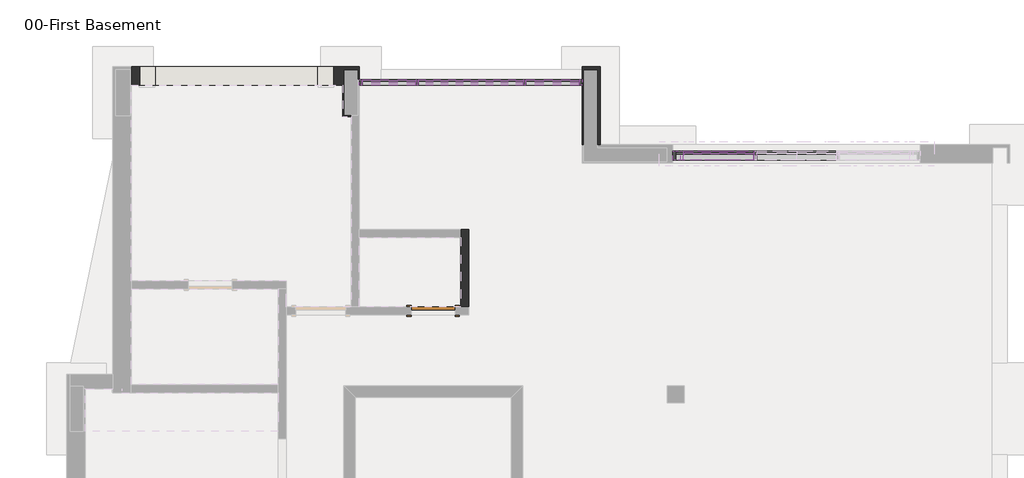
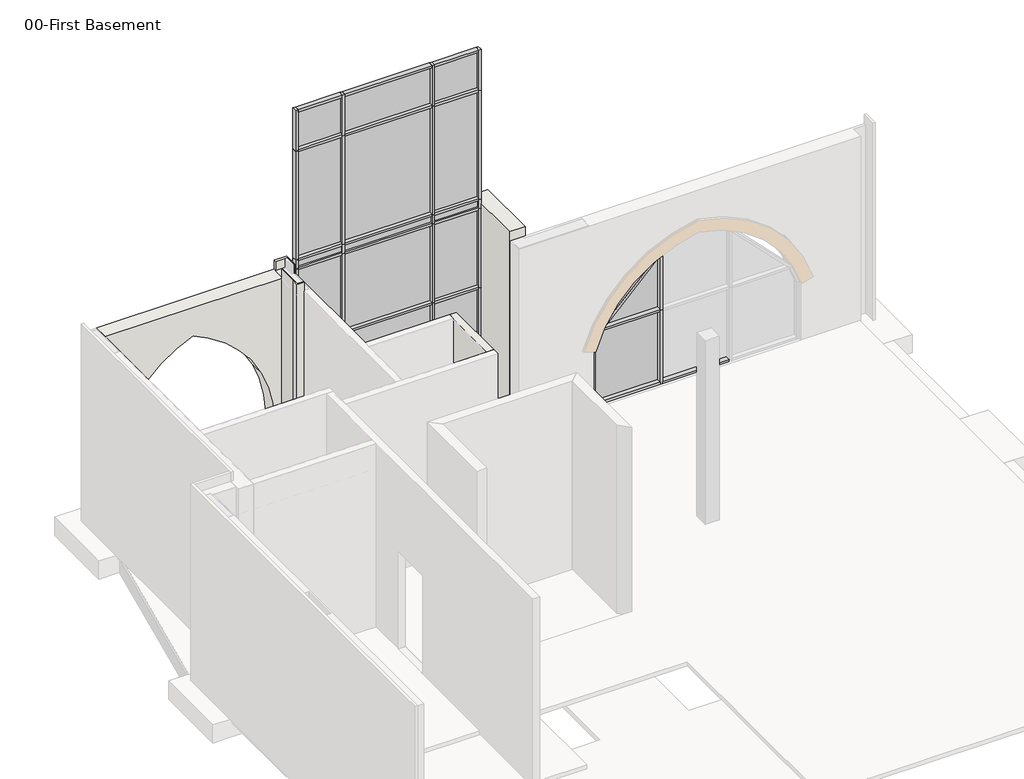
# One storey, part 2 of 5: 46 members, 17 plates, 5 walls, 1 door.
"""IFC4 building model written with IfcOpenShell, lengths in millimetres."""

from ifc_helpers import new_model, si_unit, frame, origin, place, context, project, spatial, polyline, circle_curve, faceted_brep, transform, mapped, element, save
from ifc_brep_helpers import plane_surface, revolved_surface, advanced_brep
from components import m_single_flush_0762_x_2134mm_95badebb, rectangular_mullion_50_x_100mm_b07d091a, rectangular_mullion_50_x_100mm_6a726e2b, rectangular_mullion_50_x_100mm_08c5ebd4, rectangular_mullion_50_x_100mm_9c70abfb, rectangular_mullion_50_x_100mm_d5294c93, rectangular_mullion_50_x_100mm_458d3598, rectangular_mullion_50_x_100mm_1ab0dc9e, rectangular_mullion_50_x_100mm_779ca808, rectangular_mullion_50_x_100mm_af4915d7, rectangular_mullion_50_x_100mm_a897db86, rectangular_mullion_50_x_100mm_c640f651, rectangular_mullion_50_x_100mm_afb0b622, rectangular_mullion_50_x_150mm_8dc91bbf, rectangular_mullion_50_x_150mm_ea957ebc, rectangular_mullion_50_x_150mm_096bd82a, rectangular_mullion_50_x_150mm_d3586647, rectangular_mullion_50_x_150mm_248484f7, rectangular_mullion_50_x_150mm_6aa79e23, rectangular_mullion_50_x_150mm_7041efae, rectangular_mullion_50_x_150mm_71fdedb2, system_panel_glazed_70154507, system_panel_glazed_43576473, system_panel_glazed_44af1e34, system_panel_glazed_045a3451, system_panel_glazed_f7129221, system_panel_glazed_15acf569, system_panel_glazed_fbde87e3, system_panel_glazed_87d094ba, system_panel_glazed_2f07938e, system_panel_glazed_bc1c2061, system_panel_solid_b400a1e7, system_panel_solid_eb1a4a87

model = new_model("IFC4")

# Units and contexts
model_context = context("Model", 3, world=origin())
ifc_project = project(units=[si_unit("LENGTHUNIT", "METRE", prefix="MILLI")], contexts=[model_context])

# Site, building, storey
site = spatial("IfcSite", under=ifc_project)
building = spatial("IfcBuilding", under=site)
storey = spatial("IfcBuildingStorey", under=building, Name="00-First Basement", Elevation=-4350.0)

# Door
placement = place(None, origin())
m_single_flush_0762_x_2134mm_shape = m_single_flush_0762_x_2134mm_95badebb(model_context)
element("IfcDoor", 1, ObjectType="M_Single-Flush : 0762 x 2134mm", at=placement, inside=storey, context=model_context, shape_type="MappedRepresentation", body=[
    mapped(m_single_flush_0762_x_2134mm_shape, transform((-7764.314163, 1334.1261566, -4250.0), x_axis=(1.0, 0.0, 0.0), y_axis=(0.0, 1.0, 0.0), z_axis=(0.0, 0.0, 1.0))),
])

# Members
rectangular_mullion_50_x_100mm_shape = rectangular_mullion_50_x_100mm_b07d091a(model_context)
element("IfcMember", 2, ObjectType="Rectangular Mullion : 50 x 100mm", at=placement, inside=storey, context=model_context, shape_type="MappedRepresentation", body=[
    mapped(rectangular_mullion_50_x_100mm_shape, transform((-8995.0580776, 5308.8965304, -4250.0), x_axis=(0.0, 0.0, -1.0), y_axis=(0.0, -1.0, 0.0), z_axis=(-1.0, 0.0, 0.0))),
])
element("IfcMember", 3, ObjectType="Rectangular Mullion : 50 x 100mm", at=placement, inside=storey, context=model_context, shape_type="MappedRepresentation", body=[
    mapped(rectangular_mullion_50_x_100mm_shape, transform((-6152.8802351, 5308.8965304, -4250.0), x_axis=(0.0, 0.0, -1.0), y_axis=(0.0, -1.0, 0.0), z_axis=(-1.0, 0.0, 0.0))),
])
rectangular_mullion_50_x_100mm_2_shape = rectangular_mullion_50_x_100mm_6a726e2b(model_context)
element("IfcMember", 4, ObjectType="Rectangular Mullion : 50 x 100mm", at=placement, inside=storey, context=model_context, shape_type="MappedRepresentation", body=[
    mapped(rectangular_mullion_50_x_100mm_2_shape, transform((-8020.0580776, 5308.8965304, -4250.0), x_axis=(0.0, 0.0, -1.0), y_axis=(0.0, -1.0, 0.0), z_axis=(-1.0, 0.0, 0.0))),
])
rectangular_mullion_50_x_100mm_3_shape = rectangular_mullion_50_x_100mm_08c5ebd4(model_context)
element("IfcMember", 5, ObjectType="Rectangular Mullion : 50 x 100mm", at=placement, inside=storey, context=model_context, shape_type="MappedRepresentation", body=[
    mapped(rectangular_mullion_50_x_100mm_3_shape, transform((-8045.0580776, 5308.8965304, -1850.0), x_axis=(1.0, 0.0, 0.0), y_axis=(0.0, -1.0, 0.0), z_axis=(0.0, 0.0, -1.0))),
])
element("IfcMember", 6, ObjectType="Rectangular Mullion : 50 x 100mm", at=placement, inside=storey, context=model_context, shape_type="MappedRepresentation", body=[
    mapped(rectangular_mullion_50_x_100mm_3_shape, transform((-6177.8802351, 5308.8965304, -1850.0), x_axis=(1.0, 0.0, 0.0), y_axis=(0.0, -1.0, 0.0), z_axis=(0.0, 0.0, -1.0))),
])
rectangular_mullion_50_x_100mm_4_shape = rectangular_mullion_50_x_100mm_9c70abfb(model_context)
element("IfcMember", 7, ObjectType="Rectangular Mullion : 50 x 100mm", at=placement, inside=storey, context=model_context, shape_type="MappedRepresentation", body=[
    mapped(rectangular_mullion_50_x_100mm_4_shape, transform((-8045.0580776, 5308.8965304, -100.0), x_axis=(1.0, 0.0, 0.0), y_axis=(0.0, -1.0, 0.0), z_axis=(0.0, 0.0, -1.0))),
])
element("IfcMember", 8, ObjectType="Rectangular Mullion : 50 x 100mm", at=placement, inside=storey, context=model_context, shape_type="MappedRepresentation", body=[
    mapped(rectangular_mullion_50_x_100mm_4_shape, transform((-6177.8802351, 5308.8965304, -100.0), x_axis=(1.0, 0.0, 0.0), y_axis=(0.0, -1.0, 0.0), z_axis=(0.0, 0.0, -1.0))),
])
rectangular_mullion_50_x_100mm_5_shape = rectangular_mullion_50_x_100mm_d5294c93(model_context)
element("IfcMember", 9, ObjectType="Rectangular Mullion : 50 x 100mm", at=placement, inside=storey, context=model_context, shape_type="MappedRepresentation", body=[
    mapped(rectangular_mullion_50_x_100mm_5_shape, transform((-8045.0580776, 5308.8965304, 100.0), x_axis=(1.0, 0.0, 0.0), y_axis=(0.0, -1.0, 0.0), z_axis=(0.0, 0.0, -1.0))),
])
element("IfcMember", 10, ObjectType="Rectangular Mullion : 50 x 100mm", at=placement, inside=storey, context=model_context, shape_type="MappedRepresentation", body=[
    mapped(rectangular_mullion_50_x_100mm_5_shape, transform((-6177.8802351, 5308.8965304, 100.0), x_axis=(1.0, 0.0, 0.0), y_axis=(0.0, -1.0, 0.0), z_axis=(0.0, 0.0, -1.0))),
])
rectangular_mullion_50_x_100mm_6_shape = rectangular_mullion_50_x_100mm_458d3598(model_context)
element("IfcMember", 11, ObjectType="Rectangular Mullion : 50 x 100mm", at=placement, inside=storey, context=model_context, shape_type="MappedRepresentation", body=[
    mapped(rectangular_mullion_50_x_100mm_6_shape, transform((-5227.8802351, 5308.8965304, -1850.0), x_axis=(0.0, 0.0, 1.0), y_axis=(0.0, -1.0, 0.0), z_axis=(1.0, 0.0, 0.0))),
])
element("IfcMember", 12, ObjectType="Rectangular Mullion : 50 x 100mm", at=placement, inside=storey, context=model_context, shape_type="MappedRepresentation", body=[
    mapped(rectangular_mullion_50_x_100mm_6_shape, transform((-8070.0580776, 5308.8965304, -1850.0), x_axis=(0.0, 0.0, 1.0), y_axis=(0.0, -1.0, 0.0), z_axis=(1.0, 0.0, 0.0))),
])
element("IfcMember", 13, ObjectType="Rectangular Mullion : 50 x 100mm", at=placement, inside=storey, context=model_context, shape_type="MappedRepresentation", body=[
    mapped(rectangular_mullion_50_x_100mm_6_shape, transform((-8070.0580776, 5308.8965304, 100.0), x_axis=(0.0, 0.0, 1.0), y_axis=(0.0, -1.0, 0.0), z_axis=(1.0, 0.0, 0.0))),
])
element("IfcMember", 14, ObjectType="Rectangular Mullion : 50 x 100mm", at=placement, inside=storey, context=model_context, shape_type="MappedRepresentation", body=[
    mapped(rectangular_mullion_50_x_100mm_6_shape, transform((-5227.8802351, 5308.8965304, 100.0), x_axis=(0.0, 0.0, 1.0), y_axis=(0.0, -1.0, 0.0), z_axis=(1.0, 0.0, 0.0))),
])
element("IfcMember", 15, ObjectType="Rectangular Mullion : 50 x 100mm", at=placement, inside=storey, context=model_context, shape_type="MappedRepresentation", body=[
    mapped(rectangular_mullion_50_x_100mm_6_shape, transform((-8070.0580776, 5308.8965304, -100.0), x_axis=(0.0, 0.0, 1.0), y_axis=(0.0, -1.0, 0.0), z_axis=(1.0, 0.0, 0.0))),
])
element("IfcMember", 16, ObjectType="Rectangular Mullion : 50 x 100mm", at=placement, inside=storey, context=model_context, shape_type="MappedRepresentation", body=[
    mapped(rectangular_mullion_50_x_100mm_6_shape, transform((-5227.8802351, 5308.8965304, -100.0), x_axis=(0.0, 0.0, 1.0), y_axis=(0.0, -1.0, 0.0), z_axis=(1.0, 0.0, 0.0))),
])
element("IfcMember", 17, ObjectType="Rectangular Mullion : 50 x 100mm", at=placement, inside=storey, context=model_context, shape_type="MappedRepresentation", body=[
    mapped(rectangular_mullion_50_x_100mm_6_shape, transform((-8070.0580776, 5308.8965304, 2500.0), x_axis=(0.0, 0.0, 1.0), y_axis=(0.0, -1.0, 0.0), z_axis=(1.0, 0.0, 0.0))),
])
element("IfcMember", 18, ObjectType="Rectangular Mullion : 50 x 100mm", at=placement, inside=storey, context=model_context, shape_type="MappedRepresentation", body=[
    mapped(rectangular_mullion_50_x_100mm_6_shape, transform((-5227.8802351, 5308.8965304, 2500.0), x_axis=(0.0, 0.0, 1.0), y_axis=(0.0, -1.0, 0.0), z_axis=(1.0, 0.0, 0.0))),
])
element("IfcMember", 19, ObjectType="Rectangular Mullion : 50 x 100mm", at=placement, inside=storey, context=model_context, shape_type="MappedRepresentation", body=[
    mapped(rectangular_mullion_50_x_100mm_5_shape, transform((-6177.8802351, 5308.8965304, -4250.0), x_axis=(1.0, 0.0, 0.0), y_axis=(0.0, -1.0, 0.0), z_axis=(0.0, 0.0, -1.0))),
])
element("IfcMember", 20, ObjectType="Rectangular Mullion : 50 x 100mm", at=placement, inside=storey, context=model_context, shape_type="MappedRepresentation", body=[
    mapped(rectangular_mullion_50_x_100mm_5_shape, transform((-8045.0580776, 5308.8965304, -4250.0), x_axis=(1.0, 0.0, 0.0), y_axis=(0.0, -1.0, 0.0), z_axis=(0.0, 0.0, -1.0))),
])
rectangular_mullion_50_x_100mm_7_shape = rectangular_mullion_50_x_100mm_1ab0dc9e(model_context)
element("IfcMember", 21, ObjectType="Rectangular Mullion : 50 x 100mm", at=placement, inside=storey, context=model_context, shape_type="MappedRepresentation", body=[
    mapped(rectangular_mullion_50_x_100mm_7_shape, transform((-6202.8802351, 5308.8965304, -1850.0), x_axis=(0.0, 0.0, 1.0), y_axis=(0.0, -1.0, 0.0), z_axis=(1.0, 0.0, 0.0))),
])
element("IfcMember", 22, ObjectType="Rectangular Mullion : 50 x 100mm", at=placement, inside=storey, context=model_context, shape_type="MappedRepresentation", body=[
    mapped(rectangular_mullion_50_x_100mm_7_shape, transform((-6202.8802351, 5308.8965304, 100.0), x_axis=(0.0, 0.0, 1.0), y_axis=(0.0, -1.0, 0.0), z_axis=(1.0, 0.0, 0.0))),
])
element("IfcMember", 23, ObjectType="Rectangular Mullion : 50 x 100mm", at=placement, inside=storey, context=model_context, shape_type="MappedRepresentation", body=[
    mapped(rectangular_mullion_50_x_100mm_7_shape, transform((-6202.8802351, 5308.8965304, -100.0), x_axis=(0.0, 0.0, 1.0), y_axis=(0.0, -1.0, 0.0), z_axis=(1.0, 0.0, 0.0))),
])
element("IfcMember", 24, ObjectType="Rectangular Mullion : 50 x 100mm", at=placement, inside=storey, context=model_context, shape_type="MappedRepresentation", body=[
    mapped(rectangular_mullion_50_x_100mm_7_shape, transform((-6202.8802351, 5308.8965304, 2500.0), x_axis=(0.0, 0.0, 1.0), y_axis=(0.0, -1.0, 0.0), z_axis=(1.0, 0.0, 0.0))),
])
rectangular_mullion_50_x_100mm_8_shape = rectangular_mullion_50_x_100mm_779ca808(model_context)
element("IfcMember", 25, ObjectType="Rectangular Mullion : 50 x 100mm", at=placement, inside=storey, context=model_context, shape_type="MappedRepresentation", body=[
    mapped(rectangular_mullion_50_x_100mm_8_shape, transform((-5177.8802351, 5308.8965304, -4250.0), x_axis=(1.0, 0.0, 0.0), y_axis=(0.0, -1.0, 0.0), z_axis=(0.0, 0.0, -1.0))),
])
rectangular_mullion_50_x_100mm_9_shape = rectangular_mullion_50_x_100mm_af4915d7(model_context)
element("IfcMember", 26, ObjectType="Rectangular Mullion : 50 x 100mm", at=placement, inside=storey, context=model_context, shape_type="MappedRepresentation", body=[
    mapped(rectangular_mullion_50_x_100mm_9_shape, transform((-5177.8802351, 5308.8965304, -1850.0), x_axis=(1.0, 0.0, 0.0), y_axis=(0.0, -1.0, 0.0), z_axis=(0.0, 0.0, -1.0))),
])
element("IfcMember", 27, ObjectType="Rectangular Mullion : 50 x 100mm", at=placement, inside=storey, context=model_context, shape_type="MappedRepresentation", body=[
    mapped(rectangular_mullion_50_x_100mm_8_shape, transform((-9045.0580776, 5308.8965304, -1850.0), x_axis=(-1.0, 0.0, 0.0), y_axis=(0.0, -1.0, 0.0), z_axis=(0.0, 0.0, 1.0))),
])
rectangular_mullion_50_x_100mm_10_shape = rectangular_mullion_50_x_100mm_a897db86(model_context)
element("IfcMember", 28, ObjectType="Rectangular Mullion : 50 x 100mm", at=placement, inside=storey, context=model_context, shape_type="MappedRepresentation", body=[
    mapped(rectangular_mullion_50_x_100mm_10_shape, transform((-9045.0580776, 5308.8965304, 100.0), x_axis=(-1.0, 0.0, 0.0), y_axis=(0.0, -1.0, 0.0), z_axis=(0.0, 0.0, 1.0))),
])
element("IfcMember", 29, ObjectType="Rectangular Mullion : 50 x 100mm", at=placement, inside=storey, context=model_context, shape_type="MappedRepresentation", body=[
    mapped(rectangular_mullion_50_x_100mm_8_shape, transform((-5177.8802351, 5308.8965304, 100.0), x_axis=(1.0, 0.0, 0.0), y_axis=(0.0, -1.0, 0.0), z_axis=(0.0, 0.0, -1.0))),
])
element("IfcMember", 30, ObjectType="Rectangular Mullion : 50 x 100mm", at=placement, inside=storey, context=model_context, shape_type="MappedRepresentation", body=[
    mapped(rectangular_mullion_50_x_100mm_10_shape, transform((-5177.8802351, 5308.8965304, -100.0), x_axis=(1.0, 0.0, 0.0), y_axis=(0.0, -1.0, 0.0), z_axis=(0.0, 0.0, -1.0))),
])
element("IfcMember", 31, ObjectType="Rectangular Mullion : 50 x 100mm", at=placement, inside=storey, context=model_context, shape_type="MappedRepresentation", body=[
    mapped(rectangular_mullion_50_x_100mm_9_shape, transform((-9045.0580776, 5308.8965304, -100.0), x_axis=(-1.0, 0.0, 0.0), y_axis=(0.0, -1.0, 0.0), z_axis=(0.0, 0.0, 1.0))),
])
element("IfcMember", 32, ObjectType="Rectangular Mullion : 50 x 100mm", at=placement, inside=storey, context=model_context, shape_type="MappedRepresentation", body=[
    mapped(rectangular_mullion_50_x_100mm_8_shape, transform((-9045.0580776, 5308.8965304, 2500.0), x_axis=(-1.0, 0.0, 0.0), y_axis=(0.0, -1.0, 0.0), z_axis=(0.0, 0.0, 1.0))),
])
rectangular_mullion_50_x_100mm_11_shape = rectangular_mullion_50_x_100mm_c640f651(model_context)
element("IfcMember", 33, ObjectType="Rectangular Mullion : 50 x 100mm", at=placement, inside=storey, context=model_context, shape_type="MappedRepresentation", body=[
    mapped(rectangular_mullion_50_x_100mm_11_shape, transform((-8045.0580776, 5308.8965304, 2500.0), x_axis=(1.0, 0.0, 0.0), y_axis=(0.0, -1.0, 0.0), z_axis=(0.0, 0.0, -1.0))),
])
element("IfcMember", 34, ObjectType="Rectangular Mullion : 50 x 100mm", at=placement, inside=storey, context=model_context, shape_type="MappedRepresentation", body=[
    mapped(rectangular_mullion_50_x_100mm_11_shape, transform((-6177.8802351, 5308.8965304, 2500.0), x_axis=(1.0, 0.0, 0.0), y_axis=(0.0, -1.0, 0.0), z_axis=(0.0, 0.0, -1.0))),
])
element("IfcMember", 35, ObjectType="Rectangular Mullion : 50 x 100mm", at=placement, inside=storey, context=model_context, shape_type="MappedRepresentation", body=[
    mapped(rectangular_mullion_50_x_100mm_shape, transform((-8070.0580776, 5308.8965304, 3400.0), x_axis=(0.0, 0.0, 1.0), y_axis=(0.0, -1.0, 0.0), z_axis=(1.0, 0.0, 0.0))),
])
element("IfcMember", 36, ObjectType="Rectangular Mullion : 50 x 100mm", at=placement, inside=storey, context=model_context, shape_type="MappedRepresentation", body=[
    mapped(rectangular_mullion_50_x_100mm_shape, transform((-5227.8802351, 5308.8965304, 3400.0), x_axis=(0.0, 0.0, 1.0), y_axis=(0.0, -1.0, 0.0), z_axis=(1.0, 0.0, 0.0))),
])
element("IfcMember", 37, ObjectType="Rectangular Mullion : 50 x 100mm", at=placement, inside=storey, context=model_context, shape_type="MappedRepresentation", body=[
    mapped(rectangular_mullion_50_x_100mm_2_shape, transform((-6202.8802351, 5308.8965304, 3400.0), x_axis=(0.0, 0.0, 1.0), y_axis=(0.0, -1.0, 0.0), z_axis=(1.0, 0.0, 0.0))),
])
rectangular_mullion_50_x_100mm_12_shape = rectangular_mullion_50_x_100mm_afb0b622(model_context)
element("IfcMember", 38, ObjectType="Rectangular Mullion : 50 x 100mm", at=placement, inside=storey, context=model_context, shape_type="MappedRepresentation", body=[
    mapped(rectangular_mullion_50_x_100mm_12_shape, transform((-9045.0580776, 5308.8965304, 3400.0), x_axis=(-1.0, 0.0, 0.0), y_axis=(0.0, -1.0, 0.0), z_axis=(0.0, 0.0, 1.0))),
])
element("IfcMember", 39, ObjectType="Rectangular Mullion : 50 x 100mm", at=placement, inside=storey, context=model_context, shape_type="MappedRepresentation", body=[
    mapped(rectangular_mullion_50_x_100mm_12_shape, transform((-5177.8802351, 5308.8965304, 2500.0), x_axis=(1.0, 0.0, 0.0), y_axis=(0.0, -1.0, 0.0), z_axis=(0.0, 0.0, -1.0))),
])
rectangular_mullion_50_x_150mm_shape = rectangular_mullion_50_x_150mm_8dc91bbf(model_context)
element("IfcMember", 40, ObjectType="Rectangular Mullion : 50 x 150mm", at=placement, inside=storey, context=model_context, shape_type="MappedRepresentation", body=[
    mapped(rectangular_mullion_50_x_150mm_shape, transform((-3550.6988602, 4036.536195, -4250.0), x_axis=(0.0, 0.0, -1.0), y_axis=(0.0, -1.0, 0.0), z_axis=(-1.0, 0.0, 0.0))),
])
rectangular_mullion_50_x_150mm_2_shape = rectangular_mullion_50_x_150mm_ea957ebc(model_context)
element("IfcMember", 41, ObjectType="Rectangular Mullion : 50 x 150mm", at=placement, inside=storey, context=model_context, shape_type="MappedRepresentation", body=[
    mapped(rectangular_mullion_50_x_150mm_2_shape, transform((-2142.3655268, 4036.536195, -4250.0), x_axis=(0.0, 0.0, -1.0), y_axis=(0.0, -1.0, 0.0), z_axis=(-1.0, 0.0, 0.0))),
])
rectangular_mullion_50_x_150mm_3_shape = rectangular_mullion_50_x_150mm_096bd82a(model_context)
element("IfcMember", 42, ObjectType="Rectangular Mullion : 50 x 150mm", at=placement, inside=storey, context=model_context, shape_type="MappedRepresentation", body=[
    mapped(rectangular_mullion_50_x_150mm_3_shape, transform((-2167.3655268, 4036.536195, -4250.0), x_axis=(1.0, 0.0, 0.0), y_axis=(0.0, -1.0, 0.0), z_axis=(0.0, 0.0, -1.0))),
])
rectangular_mullion_50_x_150mm_4_shape = rectangular_mullion_50_x_150mm_d3586647(model_context)
element("IfcMember", 43, ObjectType="Rectangular Mullion : 50 x 150mm", at=placement, inside=storey, context=model_context, shape_type="MappedRepresentation", body=[
    mapped(rectangular_mullion_50_x_150mm_4_shape, transform((-2167.3655268, 4036.536195, -2621.0268991), x_axis=(1.0, 0.0, 0.0), y_axis=(0.0, -1.0, 0.0), z_axis=(0.0, 0.0, -1.0))),
])
rectangular_mullion_50_x_150mm_5_shape = rectangular_mullion_50_x_150mm_248484f7(model_context)
element("IfcMember", 44, ObjectType="Rectangular Mullion : 50 x 150mm", at=placement, inside=storey, context=model_context, shape_type="MappedRepresentation", body=[
    mapped(rectangular_mullion_50_x_150mm_5_shape, transform((-2192.3655268, 4036.536195, -2621.0268991), x_axis=(0.0, 0.0, 1.0), y_axis=(0.0, -1.0, 0.0), z_axis=(1.0, 0.0, 0.0))),
])
rectangular_mullion_50_x_150mm_6_shape = rectangular_mullion_50_x_150mm_6aa79e23(model_context)
element("IfcMember", 45, ObjectType="Rectangular Mullion : 50 x 150mm", at=placement, inside=storey, context=model_context, shape_type="MappedRepresentation", body=[
    mapped(rectangular_mullion_50_x_150mm_6_shape, transform((-2167.3655268, 4036.536195, -1307.8784269), x_axis=(-0.42958491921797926, 0.0, 0.9030264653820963), y_axis=(0.0, -1.0, 0.0), z_axis=(0.9030264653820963, 0.0, 0.42958491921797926))),
])
rectangular_mullion_50_x_150mm_7_shape = rectangular_mullion_50_x_150mm_7041efae(model_context)
element("IfcMember", 46, ObjectType="Rectangular Mullion : 50 x 150mm", at=placement, inside=storey, context=model_context, shape_type="MappedRepresentation", body=[
    mapped(rectangular_mullion_50_x_150mm_7_shape, transform((-3464.5196452, 4036.536195, -2621.0268991), x_axis=(-0.9082229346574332, 0.0, 0.41848667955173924), y_axis=(0.0, -1.0, 0.0), z_axis=(0.41848667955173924, 0.0, 0.9082229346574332))),
])
rectangular_mullion_50_x_150mm_8_shape = rectangular_mullion_50_x_150mm_71fdedb2(model_context)
element("IfcMember", 47, ObjectType="Rectangular Mullion : 50 x 150mm", at=placement, inside=storey, context=model_context, shape_type="MappedRepresentation", body=[
    mapped(rectangular_mullion_50_x_150mm_8_shape, transform((-3600.6988602, 4036.536195, -2982.2809039), x_axis=(-1.0, 0.0, 0.0), y_axis=(0.0, -1.0, 0.0), z_axis=(0.0, 0.0, 1.0))),
])

# Plates
system_panel_glazed_shape = system_panel_glazed_70154507(model_context)
element("IfcPlate", 48, ObjectType="System Panel : Glazed", at=placement, inside=storey, context=model_context, shape_type="MappedRepresentation", body=[
    mapped(system_panel_glazed_shape, transform((-8532.5580776, 5308.8965304, -4200.0), x_axis=(1.0, 0.0, 0.0), y_axis=(0.0, 1.0, 0.0), z_axis=(0.0, 0.0, 1.0))),
])
element("IfcPlate", 49, ObjectType="System Panel : Glazed", at=placement, inside=storey, context=model_context, shape_type="MappedRepresentation", body=[
    mapped(system_panel_glazed_shape, transform((-5690.3802351, 5308.8965304, -4200.0), x_axis=(1.0, 0.0, 0.0), y_axis=(0.0, 1.0, 0.0), z_axis=(0.0, 0.0, 1.0))),
])
system_panel_glazed_2_shape = system_panel_glazed_43576473(model_context)
element("IfcPlate", 50, ObjectType="System Panel : Glazed", at=placement, inside=storey, context=model_context, shape_type="MappedRepresentation", body=[
    mapped(system_panel_glazed_2_shape, transform((-7111.4691563, 5308.8965304, -4200.0), x_axis=(1.0, 0.0, 0.0), y_axis=(0.0, 1.0, 0.0), z_axis=(0.0, 0.0, 1.0))),
])
system_panel_glazed_3_shape = system_panel_glazed_44af1e34(model_context)
element("IfcPlate", 51, ObjectType="System Panel : Glazed", at=placement, inside=storey, context=model_context, shape_type="MappedRepresentation", body=[
    mapped(system_panel_glazed_3_shape, transform((-8532.5580776, 5308.8965304, -1825.0), x_axis=(1.0, 0.0, 0.0), y_axis=(0.0, 1.0, 0.0), z_axis=(0.0, 0.0, 1.0))),
])
element("IfcPlate", 52, ObjectType="System Panel : Glazed", at=placement, inside=storey, context=model_context, shape_type="MappedRepresentation", body=[
    mapped(system_panel_glazed_3_shape, transform((-5690.3802351, 5308.8965304, -1825.0), x_axis=(1.0, 0.0, 0.0), y_axis=(0.0, 1.0, 0.0), z_axis=(0.0, 0.0, 1.0))),
])
system_panel_glazed_4_shape = system_panel_glazed_045a3451(model_context)
element("IfcPlate", 53, ObjectType="System Panel : Glazed", at=placement, inside=storey, context=model_context, shape_type="MappedRepresentation", body=[
    mapped(system_panel_glazed_4_shape, transform((-7111.4691563, 5308.8965304, -1825.0), x_axis=(1.0, 0.0, 0.0), y_axis=(0.0, 1.0, 0.0), z_axis=(0.0, 0.0, 1.0))),
])
system_panel_glazed_5_shape = system_panel_glazed_f7129221(model_context)
element("IfcPlate", 54, ObjectType="System Panel : Glazed", at=placement, inside=storey, context=model_context, shape_type="MappedRepresentation", body=[
    mapped(system_panel_glazed_5_shape, transform((-8532.5580776, 5308.8965304, 125.0), x_axis=(1.0, 0.0, 0.0), y_axis=(0.0, 1.0, 0.0), z_axis=(0.0, 0.0, 1.0))),
])
element("IfcPlate", 55, ObjectType="System Panel : Glazed", at=placement, inside=storey, context=model_context, shape_type="MappedRepresentation", body=[
    mapped(system_panel_glazed_5_shape, transform((-5690.3802351, 5308.8965304, 125.0), x_axis=(1.0, 0.0, 0.0), y_axis=(0.0, 1.0, 0.0), z_axis=(0.0, 0.0, 1.0))),
])
system_panel_glazed_6_shape = system_panel_glazed_15acf569(model_context)
element("IfcPlate", 56, ObjectType="System Panel : Glazed", at=placement, inside=storey, context=model_context, shape_type="MappedRepresentation", body=[
    mapped(system_panel_glazed_6_shape, transform((-7111.4691563, 5308.8965304, 125.0), x_axis=(1.0, 0.0, 0.0), y_axis=(0.0, 1.0, 0.0), z_axis=(0.0, 0.0, 1.0))),
])
system_panel_glazed_7_shape = system_panel_glazed_fbde87e3(model_context)
element("IfcPlate", 57, ObjectType="System Panel : Glazed", at=placement, inside=storey, context=model_context, shape_type="MappedRepresentation", body=[
    mapped(system_panel_glazed_7_shape, transform((-8532.5580776, 5308.8965304, 2525.0), x_axis=(1.0, 0.0, 0.0), y_axis=(0.0, 1.0, 0.0), z_axis=(0.0, 0.0, 1.0))),
])
element("IfcPlate", 58, ObjectType="System Panel : Glazed", at=placement, inside=storey, context=model_context, shape_type="MappedRepresentation", body=[
    mapped(system_panel_glazed_7_shape, transform((-5690.3802351, 5308.8965304, 2525.0), x_axis=(1.0, 0.0, 0.0), y_axis=(0.0, 1.0, 0.0), z_axis=(0.0, 0.0, 1.0))),
])
system_panel_glazed_8_shape = system_panel_glazed_87d094ba(model_context)
element("IfcPlate", 59, ObjectType="System Panel : Glazed", at=placement, inside=storey, context=model_context, shape_type="MappedRepresentation", body=[
    mapped(system_panel_glazed_8_shape, transform((-7111.4691563, 5308.8965304, 2525.0), x_axis=(1.0, 0.0, 0.0), y_axis=(0.0, 1.0, 0.0), z_axis=(0.0, 0.0, 1.0))),
])
system_panel_glazed_9_shape = system_panel_glazed_2f07938e(model_context)
element("IfcPlate", 60, ObjectType="System Panel : Glazed", at=placement, inside=storey, context=model_context, shape_type="MappedRepresentation", body=[
    mapped(system_panel_glazed_9_shape, transform((-2871.5321935, 4036.536195, -4200.0), x_axis=(1.0, 0.0, 0.0), y_axis=(0.0, 1.0, 0.0), z_axis=(0.0, 0.0, 1.0))),
])
system_panel_glazed_10_shape = system_panel_glazed_bc1c2061(model_context)
element("IfcPlate", 61, ObjectType="System Panel : Glazed", at=placement, inside=storey, context=model_context, shape_type="MappedRepresentation", body=[
    mapped(system_panel_glazed_10_shape, transform((-2794.8896696, 4036.536195, -2596.0268991), x_axis=(1.0, 0.0, 0.0), y_axis=(0.0, 1.0, 0.0), z_axis=(0.0, 0.0, 1.0))),
])
system_panel_solid_shape = system_panel_solid_b400a1e7(model_context)
element("IfcPlate", 62, ObjectType="System Panel : Solid", at=placement, inside=storey, context=model_context, shape_type="MappedRepresentation", body=[
    mapped(system_panel_solid_shape, transform((-7111.4691563, 5308.8965304, -75.0), x_axis=(1.0, 0.0, 0.0), y_axis=(0.0, 1.0, 0.0), z_axis=(0.0, 0.0, 1.0))),
])
system_panel_solid_2_shape = system_panel_solid_eb1a4a87(model_context)
element("IfcPlate", 63, ObjectType="System Panel : Solid", at=placement, inside=storey, context=model_context, shape_type="MappedRepresentation", body=[
    mapped(system_panel_solid_2_shape, transform((-8532.5580776, 5308.8965304, -75.0), x_axis=(1.0, 0.0, 0.0), y_axis=(0.0, 1.0, 0.0), z_axis=(0.0, 0.0, 1.0))),
])
element("IfcPlate", 64, ObjectType="System Panel : Solid", at=placement, inside=storey, context=model_context, shape_type="MappedRepresentation", body=[
    mapped(system_panel_solid_2_shape, transform((-5690.3802351, 5308.8965304, -75.0), x_axis=(1.0, 0.0, 0.0), y_axis=(0.0, 1.0, 0.0), z_axis=(0.0, 0.0, 1.0))),
])

# Walls
element("IfcWall", 65, ObjectType="Exterior Wall 50+100+50+100 CMU", at=placement, inside=storey, context=model_context, shape_type="AdvancedBrep", body=[
    advanced_brep(
    [(-13010.5689025, 5263.8965304, -200.0), (-13010.5689025, 5263.8965304, -4350.0), (-9335.0580776, 5263.8965304, -4350.0), (-9315.0580776, 5263.8965304, -4350.0), (-9315.0580776, 5263.8965304, -200.0), (-12876.4702189, 5263.8965304, -3282.6911916), (-12847.9832428, 5263.8965304, -2944.5387912), (-12750.0086482, 5263.8965304, -2520.7828801), (-12624.7857892, 5263.8965304, -2199.2938404), (-12384.0852757, 5263.8965304, -1782.9407783), (-12170.6968185, 5263.8965304, -1516.9848918), (-11841.8931583, 5263.8965304, -1211.5377399), (-11511.3211353, 5263.8965304, -989.2763131), (-11178.8457597, 5263.8965304, -828.6689239), (-10878.307724, 5263.8965304, -971.3486255), (-10515.3700025, 5263.8965304, -1211.8741116), (-10225.6032144, 5263.8965304, -1475.5141465), (-9973.8438103, 5263.8965304, -1782.6031869), (-9766.8401017, 5263.8965304, -2128.9788053), (-9481.2213005, 5263.8965304, -3282.6911916), (-9766.8457597, 5263.8965304, -3282.6911916), (-9766.8457597, 5263.8965304, -4250.0), (-12590.8457597, 5263.8965304, -4250.0), (-12590.8457597, 5263.8965304, -3282.6911916), (-9045.0580776, 5263.8965304, -4350.0), (-9045.0580776, 5263.8965304, -200.0), (-9065.0580776, 5263.8965304, -200.0), (-9065.0580776, 5263.8965304, -4350.0), (-9045.0580776, 5583.8965304, -4350.0), (-13010.5689025, 5583.8965304, -4350.0), (-13010.5689025, 5583.8965304, -200.0), (-9304.0265453, 5583.8965304, -200.0), (-9304.0265453, 5583.8965304, 0.0), (-9045.0580776, 5583.8965304, 0.0), (-12847.9832428, 5583.8965304, -2944.5387912), (-12876.4702189, 5583.8965304, -3282.6911916), (-12590.8457597, 5583.8965304, -3282.6911916), (-12590.8457597, 5583.8965304, -4250.0), (-9766.8457597, 5583.8965304, -4250.0), (-9766.8457597, 5583.8965304, -3282.6911916), (-9481.2213005, 5583.8965304, -3282.6911916), (-9766.8401017, 5583.8965304, -2128.9788053), (-9973.8438103, 5583.8965304, -1782.6031869), (-10225.6032144, 5583.8965304, -1475.5141465), (-10515.3700025, 5583.8965304, -1211.8741116), (-10878.307724, 5583.8965304, -971.3486255), (-11178.8457597, 5583.8965304, -828.6689239), (-11511.3211353, 5583.8965304, -989.2763131), (-11841.8931583, 5583.8965304, -1211.5377399), (-12170.6968185, 5583.8965304, -1516.9848918), (-12384.0852757, 5583.8965304, -1782.9407783), (-12624.7857892, 5583.8965304, -2199.2938404), (-12750.0086482, 5583.8965304, -2520.7828801), (-9065.0580776, 5533.8965304, -4350.0), (-9315.0580776, 5533.8965304, -4350.0), (-9045.0580776, 5283.8965304, 0.0), (-9045.0580776, 5283.8965304, -200.0), (-9304.0265453, 5533.8965304, 0.0), (-9115.0580776, 5533.8965304, 0.0), (-9065.0580776, 5533.8965304, 0.0), (-9065.0580776, 5283.8965304, 0.0), (-9315.0580776, 5533.8965304, -200.0), (-9304.0265453, 5533.8965304, -200.0), (-9065.0580776, 5283.8965304, -200.0)],
    [
        (0, 1),
        (1, 2),
        (2, 3),
        (3, 4),
        (4, 0),
        (5, 6, circle_curve(frame((-10170.5596339, 5263.8965304, -3340.3691304), z_axis=(0.0, 1.0, 0.0), x_axis=(-1.0, 0.0, 0.0)), 2706.5252334)),
        (6, 7, circle_curve(frame((-10170.5596339, 5263.8965304, -3340.3691304), z_axis=(0.0, 1.0, 0.0), x_axis=(-1.0, 0.0, 0.0)), 2706.5252334)),
        (7, 8, circle_curve(frame((-10170.5596339, 5263.8965304, -3340.3691304), z_axis=(0.0, 1.0, 0.0), x_axis=(-1.0, 0.0, 0.0)), 2706.5252334)),
        (8, 9, circle_curve(frame((-10170.5596339, 5263.8965304, -3340.3691304), z_axis=(0.0, 1.0, 0.0), x_axis=(-1.0, 0.0, 0.0)), 2706.5252334)),
        (9, 10, circle_curve(frame((-10170.5596339, 5263.8965304, -3340.3691304), z_axis=(0.0, 1.0, 0.0), x_axis=(-1.0, 0.0, 0.0)), 2706.5252334)),
        (10, 11, circle_curve(frame((-10170.5596339, 5263.8965304, -3340.3691304), z_axis=(0.0, 1.0, 0.0), x_axis=(-1.0, 0.0, 0.0)), 2706.5252334)),
        (11, 12, circle_curve(frame((-10170.5596339, 5263.8965304, -3340.3691304), z_axis=(0.0, 1.0, 0.0), x_axis=(-1.0, 0.0, 0.0)), 2706.5252334)),
        (12, 13, circle_curve(frame((-10170.5596339, 5263.8965304, -3340.3691304), z_axis=(0.0, 1.0, 0.0), x_axis=(-1.0, 0.0, 0.0)), 2706.5252334)),
        (13, 14, circle_curve(frame((-12187.1318856, 5263.8965304, -3340.3691304), z_axis=(0.0, 1.0, 0.0), x_axis=(-1.0, 0.0, 0.0)), 2706.5252334)),
        (14, 15, circle_curve(frame((-12187.1318856, 5263.8965304, -3340.3691304), z_axis=(0.0, 1.0, 0.0), x_axis=(-1.0, 0.0, 0.0)), 2706.5252334)),
        (15, 16, circle_curve(frame((-12187.1318856, 5263.8965304, -3340.3691304), z_axis=(0.0, 1.0, 0.0), x_axis=(-1.0, 0.0, 0.0)), 2706.5252334)),
        (16, 17, circle_curve(frame((-12187.1318856, 5263.8965304, -3340.3691304), z_axis=(0.0, 1.0, 0.0), x_axis=(-1.0, 0.0, 0.0)), 2706.5252334)),
        (17, 18, circle_curve(frame((-12187.1318856, 5263.8965304, -3340.3691304), z_axis=(0.0, 1.0, 0.0), x_axis=(-1.0, 0.0, 0.0)), 2706.5252334)),
        (18, 19, circle_curve(frame((-12187.1318856, 5263.8965304, -3340.3691304), z_axis=(0.0, 1.0, 0.0), x_axis=(-1.0, 0.0, 0.0)), 2706.5252334)),
        (19, 20),
        (20, 21),
        (21, 22),
        (22, 23),
        (23, 5),
        (24, 25),
        (25, 26),
        (26, 27),
        (27, 24),
        (28, 29),
        (29, 30),
        (30, 31),
        (31, 32),
        (32, 33),
        (33, 28),
        (34, 35, circle_curve(frame((-10170.5596339, 5583.8965304, -3340.3691304), z_axis=(0.0, -1.0, 0.0), x_axis=(-1.0, 0.0, 0.0)), 2706.5252334)),
        (35, 36),
        (36, 37),
        (37, 38),
        (38, 39),
        (39, 40),
        (40, 41, circle_curve(frame((-12187.1318856, 5583.8965304, -3340.3691304), z_axis=(0.0, -1.0, 0.0), x_axis=(-1.0, 0.0, 0.0)), 2706.5252334)),
        (41, 42, circle_curve(frame((-12187.1318856, 5583.8965304, -3340.3691304), z_axis=(0.0, -1.0, 0.0), x_axis=(-1.0, 0.0, 0.0)), 2706.5252334)),
        (42, 43, circle_curve(frame((-12187.1318856, 5583.8965304, -3340.3691304), z_axis=(0.0, -1.0, 0.0), x_axis=(-1.0, 0.0, 0.0)), 2706.5252334)),
        (43, 44, circle_curve(frame((-12187.1318856, 5583.8965304, -3340.3691304), z_axis=(0.0, -1.0, 0.0), x_axis=(-1.0, 0.0, 0.0)), 2706.5252334)),
        (44, 45, circle_curve(frame((-12187.1318856, 5583.8965304, -3340.3691304), z_axis=(0.0, -1.0, 0.0), x_axis=(-1.0, 0.0, 0.0)), 2706.5252334)),
        (45, 46, circle_curve(frame((-12187.1318856, 5583.8965304, -3340.3691304), z_axis=(0.0, -1.0, 0.0), x_axis=(-1.0, 0.0, 0.0)), 2706.5252334)),
        (46, 47, circle_curve(frame((-10170.5596339, 5583.8965304, -3340.3691304), z_axis=(0.0, -1.0, 0.0), x_axis=(-1.0, 0.0, 0.0)), 2706.5252334)),
        (47, 48, circle_curve(frame((-10170.5596339, 5583.8965304, -3340.3691304), z_axis=(0.0, -1.0, 0.0), x_axis=(-1.0, 0.0, 0.0)), 2706.5252334)),
        (48, 49, circle_curve(frame((-10170.5596339, 5583.8965304, -3340.3691304), z_axis=(0.0, -1.0, 0.0), x_axis=(-1.0, 0.0, 0.0)), 2706.5252334)),
        (49, 50, circle_curve(frame((-10170.5596339, 5583.8965304, -3340.3691304), z_axis=(0.0, -1.0, 0.0), x_axis=(-1.0, 0.0, 0.0)), 2706.5252334)),
        (50, 51, circle_curve(frame((-10170.5596339, 5583.8965304, -3340.3691304), z_axis=(0.0, -1.0, 0.0), x_axis=(-1.0, 0.0, 0.0)), 2706.5252334)),
        (51, 52, circle_curve(frame((-10170.5596339, 5583.8965304, -3340.3691304), z_axis=(0.0, -1.0, 0.0), x_axis=(-1.0, 0.0, 0.0)), 2706.5252334)),
        (52, 34, circle_curve(frame((-10170.5596339, 5583.8965304, -3340.3691304), z_axis=(0.0, -1.0, 0.0), x_axis=(-1.0, 0.0, 0.0)), 2706.5252334)),
        (28, 24),
        (27, 53),
        (53, 54),
        (54, 3),
        (1, 29),
        (33, 55),
        (55, 56),
        (56, 25),
        (57, 58),
        (58, 59),
        (59, 60),
        (60, 55),
        (32, 57),
        (0, 30),
        (4, 61),
        (61, 62),
        (62, 31),
        (56, 63),
        (63, 26),
        (57, 62),
        (61, 54),
        (53, 59),
        (60, 63),
        (34, 6),
        (5, 35),
        (52, 7),
        (51, 8),
        (50, 9),
        (49, 10),
        (48, 11),
        (47, 12),
        (46, 13),
        (45, 14),
        (44, 15),
        (43, 16),
        (42, 17),
        (41, 18),
        (40, 19),
        (39, 20),
        (38, 21),
        (37, 22),
        (36, 23),
    ],
    [
        plane_surface(frame((-13330.5689025, 5263.8965304, -4350.0), z_axis=(0.0, -1.0, 0.0), x_axis=(1.0, 0.0, 0.0))),
        plane_surface(frame((-13330.5689025, 5583.8965304, -4350.0), z_axis=(0.0, 1.0, 0.0), x_axis=(-1.0, 0.0, 0.0))),
        plane_surface(frame((-13170.5689025, 5263.8965304, -4350.0), z_axis=(0.0, 0.0, -1.0), x_axis=(0.0, 1.0, 0.0))),
        plane_surface(frame((-9045.0580776, 5263.8965304, -4350.0), z_axis=(1.0, 0.0, 0.0), x_axis=(0.0, 1.0, 0.0))),
        plane_surface(frame((-9045.0580776, 5263.8965304, 0.0), z_axis=(0.0, 0.0, 1.0), x_axis=(0.0, 1.0, 0.0))),
        plane_surface(frame((-13010.5689025, -66.1034696, -4350.0), z_axis=(-1.0, 0.0, 0.0), x_axis=(0.0, 1.0, 0.0))),
        plane_surface(frame((-14080.5689025, 183.8965304, -200.0), z_axis=(0.0, 0.0, 1.0), x_axis=(1.0, 0.0, 0.0))),
        plane_surface(frame((-9304.0265453, 5533.8965304, -200.0), z_axis=(0.0, -1.0, 0.0), x_axis=(0.0, 0.0, 1.0))),
        plane_surface(frame((-9315.0580776, 5533.8965304, 0.0), z_axis=(1.0, 0.0, 0.0), x_axis=(0.0, 0.0, -1.0))),
        plane_surface(frame((-9304.0265453, 7123.8965304, -200.0), z_axis=(-1.0, 0.0, 0.0), x_axis=(0.0, 0.0, 1.0))),
        plane_surface(frame((-9115.0580776, 5283.8965304, -200.0), z_axis=(0.0, -1.0, 0.0), x_axis=(0.0, 0.0, 1.0))),
        revolved_surface(polyline([(-12877.0848673, 5583.8965304, -3340.3691304), (-12877.0848673, 5263.8965304, -3340.3691304)]), (-10170.5596339, 5263.8965304, -3340.3691304), (0.0, 1.0, 0.0)),
        revolved_surface(polyline([(-14893.657119, 5583.8965304, -3340.3691304), (-14893.657119, 5263.8965304, -3340.3691304)]), (-12187.1318856, 5263.8965304, -3340.3691304), (0.0, 1.0, 0.0)),
        plane_surface(frame((-9481.2213005, 5583.8965304, -3282.6911916), z_axis=(0.0, 0.0, 1.0), x_axis=(0.0, -1.0, 0.0))),
        plane_surface(frame((-9766.8457597, 5583.8965304, -3282.6911916), z_axis=(-1.0, 0.0, 0.0), x_axis=(0.0, -1.0, 0.0))),
        plane_surface(frame((-9766.8457597, 5583.8965304, -4250.0), z_axis=(0.0, 0.0, 1.0), x_axis=(0.0, -1.0, 0.0))),
        plane_surface(frame((-12590.8457597, 5583.8965304, -4250.0), z_axis=(1.0, 0.0, 0.0), x_axis=(0.0, -1.0, 0.0))),
        plane_surface(frame((-12590.8457597, 5583.8965304, -3282.6911916), z_axis=(0.0, 0.0, 1.0), x_axis=(0.0, -1.0, 0.0))),
        plane_surface(frame((-9065.0580776, 4733.8965304, 0.0), z_axis=(-1.0, 0.0, 0.0), x_axis=(0.0, 0.0, -1.0))),
    ],
    [
        (0, [[1, 2, 3, 4, 5], [6, 7, 8, 9, 10, 11, 12, 13, 14, 15, 16, 17, 18, 19, 20, 21, 22, 23, 24]]),
        (0, [[25, 26, 27, 28]]),
        (1, [[29, 30, 31, 32, 33, 34], [35, 36, 37, 38, 39, 40, 41, 42, 43, 44, 45, 46, 47, 48, 49, 50, 51, 52, 53]]),
        (2, [[-29, 54, -28, 55, 56, 57, -3, -2, 58]]),
        (3, [[-34, 59, 60, 61, -25, -54]]),
        (4, [[62, 63, 64, 65, -59, -33, 66]]),
        (5, [[-58, -1, 67, -30]]),
        (6, [[-67, -5, 68, 69, 70, -31]]),
        (6, [[-61, 71, 72, -26]]),
        (7, [[73, -69, 74, -56, 75, -63, -62]]),
        (8, [[-74, -68, -4, -57]]),
        (9, [[-73, -66, -32, -70]]),
        (10, [[-60, -65, 76, -71]]),
        (11, [[77, -6, 78, -35]]),
        (11, [[-77, -53, 79, -7]]),
        (11, [[-79, -52, 80, -8]]),
        (11, [[-80, -51, 81, -9]]),
        (11, [[-81, -50, 82, -10]]),
        (11, [[-82, -49, 83, -11]]),
        (11, [[-83, -48, 84, -12]]),
        (11, [[-84, -47, 85, -13]]),
        (12, [[-85, -46, 86, -14]]),
        (12, [[-86, -45, 87, -15]]),
        (12, [[-87, -44, 88, -16]]),
        (12, [[-88, -43, 89, -17]]),
        (12, [[-89, -42, 90, -18]]),
        (12, [[-90, -41, 91, -19]]),
        (13, [[-91, -40, 92, -20]]),
        (14, [[-92, -39, 93, -21]]),
        (15, [[-93, -38, 94, -22]]),
        (16, [[-94, -37, 95, -23]]),
        (17, [[-78, -24, -95, -36]]),
        (18, [[-75, -55, -27, -72, -76, -64]]),
    ],
),
])
element("IfcWall", 66, ObjectType="Interiror Wall - 140mm Masonry with plaster", at=placement, inside=storey, context=model_context, shape_type="Brep", body=[
    faceted_brep([(-7143.314163, 1404.1261566, -4350.0), (-7143.314163, 2754.3416604, -4350.0), (-7143.314163, 2754.3416604, -200.0), (-7143.314163, 1404.1261566, -200.0), (-7283.314163, 1404.1261566, -4350.0), (-7283.314163, 1404.1261566, -200.0), (-7283.314163, 2614.3416604, -200.0), (-7283.314163, 2754.3416604, -200.0), (-7283.314163, 2754.3416604, -4350.0), (-7283.314163, 2614.3416604, -4350.0)], [[[0, 1, 2, 3]], [[4, 5, 6, 7, 8, 9]], [[1, 0, 4, 9, 8]], [[0, 3, 5, 4]], [[2, 1, 8, 7]], [[3, 2, 7, 6, 5]]]),
])
element("IfcWall", 67, ObjectType="Exterior Wall 50+100+50+100 CMU", at=placement, inside=storey, context=model_context, shape_type="Brep", body=[
    faceted_brep([(-5177.8802351, 5583.8965304, -4350.0), (-5177.8802351, 4226.127499, -4350.0), (-5177.8802351, 4226.127499, -200.0), (-5177.8802351, 4226.127499, 0.0), (-5177.8802351, 5583.8965304, 0.0), (-4857.8802351, 4226.127499, -4350.0), (-4857.8802351, 5583.8965304, -4350.0), (-4857.8802351, 5583.8965304, 0.0), (-4857.8802351, 4226.127499, 0.0), (-4907.8802351, 4226.127499, -4350.0), (-4907.8802351, 5533.8965304, -4350.0), (-5157.8802351, 5533.8965304, -4350.0), (-5157.8802351, 4226.127499, -4350.0), (-5157.8802351, 4226.127499, -200.0), (-4907.8802351, 4226.127499, -200.0), (-5157.8802351, 5533.8965304, -200.0), (-4907.8802351, 5533.8965304, -200.0)], [[[0, 1, 2, 3, 4]], [[5, 6, 7, 8]], [[1, 0, 6, 5, 9, 10, 11, 12]], [[4, 3, 8, 7]], [[0, 4, 7, 6]], [[3, 2, 1, 12, 13, 14, 9, 5, 8]], [[15, 16, 14, 13]], [[11, 15, 13, 12]], [[16, 10, 9, 14]], [[16, 15, 11, 10]]]),
])
element("IfcWall", 68, ObjectType="Interiror Wall - 140mm Masonry with plaster", at=placement, inside=storey, context=model_context, shape_type="Brep", body=[
    faceted_brep([(-9335.0580776, 5263.8965304, -4350.0), (-9335.0580776, 4853.8965304, -4350.0), (-9335.0580776, 4853.8965304, 0.0), (-9335.0580776, 5263.8965304, 0.0), (-9315.0580776, 5263.8965304, -4350.0), (-9315.0580776, 4853.8965304, -4350.0), (-9315.0580776, 4853.8965304, 0.0), (-9315.0580776, 5263.8965304, 0.0), (-9315.0580776, 5263.8965304, -200.0)], [[[0, 1, 2, 3]], [[1, 0, 4, 5]], [[3, 2, 6, 7]], [[0, 3, 7, 8, 4]], [[2, 1, 5, 6]], [[5, 4, 8, 7, 6]]]),
])
element("IfcWall", 69, ObjectType="Interiror Wall - 140mm Masonry with plaster", at=placement, inside=storey, context=model_context, shape_type="Brep", body=[
    faceted_brep([(-9335.0580776, 4713.8965304, -4350.0), (-9185.0580776, 4713.8965304, -4350.0), (-9185.0580776, 4713.8965304, 0.0), (-9335.0580776, 4713.8965304, 0.0), (-9335.0580776, 4853.8965304, -4350.0), (-9335.0580776, 4853.8965304, 0.0), (-9315.0580776, 4853.8965304, 0.0), (-9315.0580776, 4853.8965304, -4350.0), (-9315.0580776, 4733.8965304, -4350.0), (-9185.0580776, 4733.8965304, -4350.0), (-9185.0580776, 4733.8965304, 0.0), (-9315.0580776, 4733.8965304, 0.0), (-9185.0580776, 4733.8965304, -200.0), (-9315.0580776, 4733.8965304, -200.0)], [[[0, 1, 2, 3]], [[4, 5, 6, 7]], [[1, 0, 4, 7, 8, 9]], [[3, 2, 10, 11, 6, 5]], [[0, 3, 5, 4]], [[2, 1, 9, 12, 10]], [[8, 13, 11, 10, 12, 9]], [[11, 13, 8, 7, 6]]]),
])

save(model, "model.ifc")
